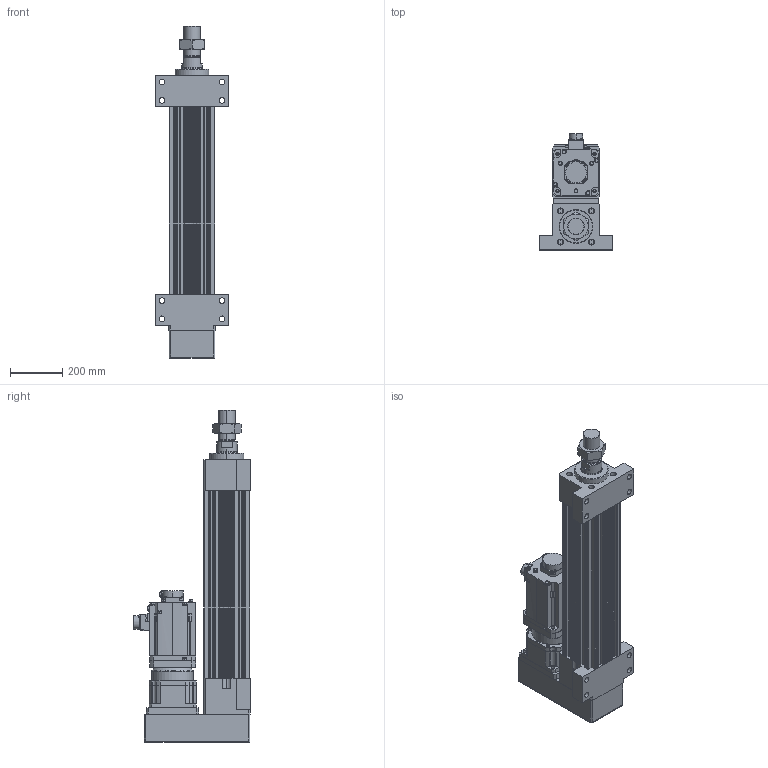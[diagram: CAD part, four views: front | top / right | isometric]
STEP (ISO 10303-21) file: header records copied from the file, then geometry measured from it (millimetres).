
FILE_DESCRIPTION (( 'STEP AP203' ), '1' );
FILE_NAME ('HES180HS-P400-W070G00-M-FFB.STEP', '2026-06-10T06:48:26', ( 'tms' ), ( '' ), 'SwSTEP 2.0', 'SolidWorks 2013', '' );
FILE_SCHEMA (( 'CONFIG_CONTROL_DESIGN' ));
Length unit declared in the file: millimetre
Products named in the file (9): HES180-FFB-400; HES180-M-ROD-400; HG-SR702B; AB1801; AB1802; HES180HS-P400-W070G00-M-FFB; HES180-P-G180; M64X2.0P; AB1803
Assembly tree (8 placements, depth 2):
  HES180HS-P400-W070G00-M-FFB
    HES180-FFB-400
    HES180-M-ROD-400
    M64X2.0P
    HES180-P-G180
    AB1801
    AB1802
    AB1803
    HG-SR702B
Bounding box: 280 x 447.1 x 1272 mm (x, y, z)
Volume: 30630883.2 mm3; surface area: 2699541.6 mm2
Topology: 5 solids, 20 shells, 1500 faces, 3895 edges, 2540 vertices
Faces by surface type: cylinder 692, plane 607, cone 134, bspline 63, torus 4
Entity records: 54836 total; most frequent: CARTESIAN_POINT 16372, DIRECTION 8097, ORIENTED_EDGE 7714, EDGE_CURVE 3881, AXIS2_PLACEMENT_3D 3045, VERTEX_POINT 2540, LINE 2007, VECTOR 2007
